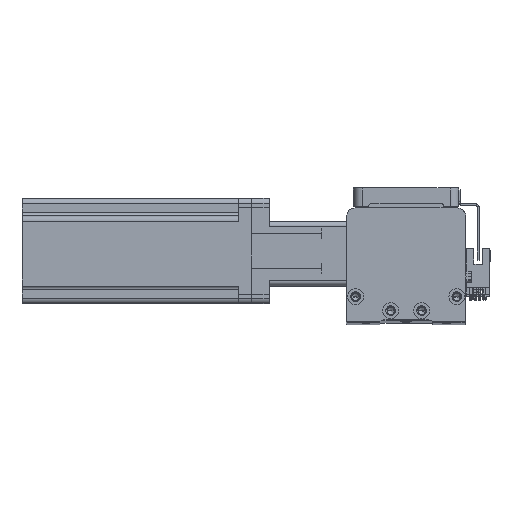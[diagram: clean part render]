
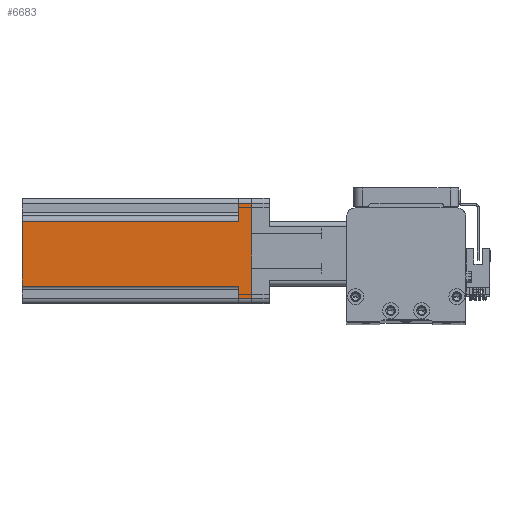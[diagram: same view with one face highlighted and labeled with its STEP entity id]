
A CAD part, top view. The second image highlights one B-rep face of the part: STEP entity #6683.
In plain terms, the highlighted planar face has unit normal (0, 0, 1) as drawn and (-1, 0, 0) by its records, which use the part's own axes.
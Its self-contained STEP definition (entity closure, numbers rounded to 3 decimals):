
#512 = VERTEX_POINT ( 'NONE', #11338 ) ;
#1077 = EDGE_CURVE ( 'NONE', #17153, #2459, #17249, .T. ) ;
#1247 = LINE ( 'NONE', #18119, #35878 ) ;
#2459 = VERTEX_POINT ( 'NONE', #4015 ) ;
#3715 = VECTOR ( 'NONE', #21155, 1000. ) ;
#4015 = CARTESIAN_POINT ( 'NONE',  ( -30., -17., 130.7 ) ) ;
#4184 = VECTOR ( 'NONE', #16711, 1000. ) ;
#4782 = CARTESIAN_POINT ( 'NONE',  ( -30., -27., 0. ) ) ;
#6132 = VERTEX_POINT ( 'NONE', #34857 ) ;
#6623 = CARTESIAN_POINT ( 'NONE',  ( -30., -30., 7.5 ) ) ;
#6683 = ADVANCED_FACE ( 'NONE', ( #16099 ), #41506, .F. ) ;
#8273 = VECTOR ( 'NONE', #20350, 1000. ) ;
#9121 = ORIENTED_EDGE ( 'NONE', *, *, #16903, .F. ) ;
#10330 = ORIENTED_EDGE ( 'NONE', *, *, #1077, .T. ) ;
#10618 = EDGE_CURVE ( 'NONE', #6132, #2459, #30448, .T. ) ;
#11196 = VERTEX_POINT ( 'NONE', #4782 ) ;
#11199 = CARTESIAN_POINT ( 'NONE',  ( -30., -30., 0. ) ) ;
#11338 = CARTESIAN_POINT ( 'NONE',  ( -30., 27., 7.5 ) ) ;
#13396 = VERTEX_POINT ( 'NONE', #13443 ) ;
#13443 = CARTESIAN_POINT ( 'NONE',  ( -30., -27., 7.5 ) ) ;
#14226 = VECTOR ( 'NONE', #31807, 1000. ) ;
#14454 = VECTOR ( 'NONE', #34572, 1000. ) ;
#15301 = EDGE_CURVE ( 'NONE', #19240, #11196, #31105, .T. ) ;
#16099 = FACE_OUTER_BOUND ( 'NONE', #30138, .T. ) ;
#16711 = DIRECTION ( 'NONE',  ( 0., 0., -1. ) ) ;
#16757 = VECTOR ( 'NONE', #18251, 1000. ) ;
#16903 = EDGE_CURVE ( 'NONE', #17153, #13396, #22068, .T. ) ;
#17153 = VERTEX_POINT ( 'NONE', #21363 ) ;
#17249 = LINE ( 'NONE', #21207, #8273 ) ;
#17971 = CARTESIAN_POINT ( 'NONE',  ( -30., 27., 0. ) ) ;
#18119 = CARTESIAN_POINT ( 'NONE',  ( -30., 30., 7.5 ) ) ;
#18251 = DIRECTION ( 'NONE',  ( 0., 0., 1. ) ) ;
#18359 = DIRECTION ( 'NONE',  ( 1., 0., 0. ) ) ;
#19240 = VERTEX_POINT ( 'NONE', #17971 ) ;
#19942 = ORIENTED_EDGE ( 'NONE', *, *, #10618, .F. ) ;
#20253 = EDGE_CURVE ( 'NONE', #512, #19240, #39786, .T. ) ;
#20350 = DIRECTION ( 'NONE',  ( 0., 0., 1. ) ) ;
#20730 = ORIENTED_EDGE ( 'NONE', *, *, #21820, .T. ) ;
#21155 = DIRECTION ( 'NONE',  ( 0., -1., 0. ) ) ;
#21207 = CARTESIAN_POINT ( 'NONE',  ( -30., -17., 130.7 ) ) ;
#21363 = CARTESIAN_POINT ( 'NONE',  ( -30., -17., 7.5 ) ) ;
#21631 = CARTESIAN_POINT ( 'NONE',  ( -30., 20., 7.5 ) ) ;
#21820 = EDGE_CURVE ( 'NONE', #11196, #13396, #31965, .T. ) ;
#22068 = LINE ( 'NONE', #6623, #38686 ) ;
#22332 = EDGE_CURVE ( 'NONE', #27553, #6132, #26646, .T. ) ;
#25976 = ORIENTED_EDGE ( 'NONE', *, *, #20253, .T. ) ;
#26646 = LINE ( 'NONE', #21631, #16757 ) ;
#26709 = DIRECTION ( 'NONE',  ( 0., -1., 0. ) ) ;
#27264 = AXIS2_PLACEMENT_3D ( 'NONE', #38272, #18359, #41662 ) ;
#27553 = VERTEX_POINT ( 'NONE', #30302 ) ;
#29639 = ORIENTED_EDGE ( 'NONE', *, *, #22332, .F. ) ;
#30138 = EDGE_LOOP ( 'NONE', ( #9121, #10330, #19942, #29639, #42201, #25976, #41339, #20730 ) ) ;
#30302 = CARTESIAN_POINT ( 'NONE',  ( -30., 20., 7.5 ) ) ;
#30448 = LINE ( 'NONE', #31115, #3715 ) ;
#31105 = LINE ( 'NONE', #11199, #14454 ) ;
#31115 = CARTESIAN_POINT ( 'NONE',  ( -30., -30., 130.7 ) ) ;
#31807 = DIRECTION ( 'NONE',  ( 0., 0., 1. ) ) ;
#31965 = LINE ( 'NONE', #38509, #14226 ) ;
#32137 = EDGE_CURVE ( 'NONE', #27553, #512, #1247, .T. ) ;
#34572 = DIRECTION ( 'NONE',  ( 0., -1., 0. ) ) ;
#34857 = CARTESIAN_POINT ( 'NONE',  ( -30., 20., 130.7 ) ) ;
#35000 = DIRECTION ( 'NONE',  ( 0., 1., 0. ) ) ;
#35878 = VECTOR ( 'NONE', #35000, 1000. ) ;
#38272 = CARTESIAN_POINT ( 'NONE',  ( -30., -30., 130.7 ) ) ;
#38509 = CARTESIAN_POINT ( 'NONE',  ( -30., -27., 130.7 ) ) ;
#38686 = VECTOR ( 'NONE', #26709, 1000. ) ;
#39786 = LINE ( 'NONE', #39987, #4184 ) ;
#39987 = CARTESIAN_POINT ( 'NONE',  ( -30., 27., 130.7 ) ) ;
#41339 = ORIENTED_EDGE ( 'NONE', *, *, #15301, .T. ) ;
#41506 = PLANE ( 'NONE',  #27264 ) ;
#41662 = DIRECTION ( 'NONE',  ( 0., 0., -1. ) ) ;
#42201 = ORIENTED_EDGE ( 'NONE', *, *, #32137, .T. ) ;
